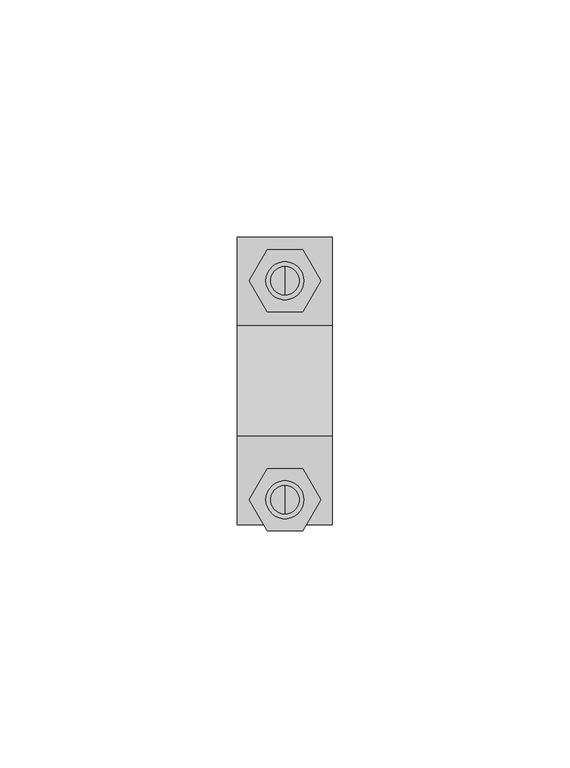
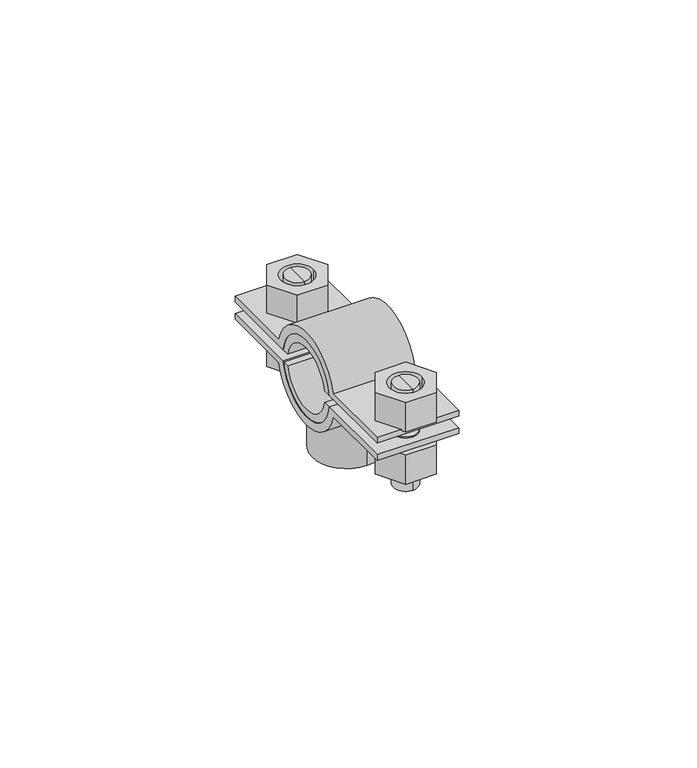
"""IFC4 building model written with IfcOpenShell, lengths in millimetres: valve geometry, Superfix DG2 Clamp Extra : Superfix DG2 Clamp Extra."""

from ifc_helpers import new_model, si_unit, point, frame, frame_2d, origin, origin_2d, place, context, project, spatial, polyline, circle_curve, trimmed, segment, composite_curve, outline, extrude, source, transform, mapped, element, save
from ifc_brep_helpers import plane_surface, cylinder_surface, advanced_brep


def valve_541e58e5(model_context):
    return source(origin(), model_context, "Body", "SolidModel", [
        advanced_brep(
        [(0.0, 24.125, 334.4), (0.0, 18.125, 334.4), (0.0, 18.125, 348.5), (0.0, 24.125, 348.5), (0.0, 21.125, 334.4)],
        [
            (0, 1, circle_curve(frame((0.0, 21.125, 334.4), z_axis=(0.0, 0.0, 1.0), x_axis=(0.0, 1.0, 0.0)), 3.0)),
            (1, 2),
            (2, 3, circle_curve(frame((0.0, 21.125, 348.5), z_axis=(0.0, 0.0, -1.0), x_axis=(0.0, 1.0, 0.0)), 3.0)),
            (3, 0),
            (1, 0, circle_curve(frame((0.0, 21.125, 334.4), z_axis=(0.0, 0.0, 1.0), x_axis=(0.0, 1.0, 0.0)), 3.0)),
            (3, 2, circle_curve(frame((0.0, 21.125, 348.5), z_axis=(0.0, 0.0, -1.0), x_axis=(0.0, 1.0, 0.0)), 3.0)),
            (0, 4),
            (4, 1),
        ],
        [
            cylinder_surface(frame((0.0, 21.125, 348.2806094), z_axis=(0.0, 0.0, 1.0), x_axis=(0.0, 1.0, 0.0)), 3.0),
            plane_surface(frame((0.0, 21.125, 334.4), z_axis=(0.0, 0.0, -1.0), x_axis=(0.0, 1.0, 0.0))),
            plane_surface(frame((13.75, -30.25, 348.5), z_axis=(0.0, 0.0, 1.0), x_axis=(-1.0, 0.0, 0.0))),
        ],
        [
            (0, [[1, 2, 3, 4]]),
            (0, [[5, -4, 6, -2]]),
            (1, [[-1, 7, 8]]),
            (1, [[-5, -8, -7]]),
            (2, [[-3, -6]]),
        ],
    ),
        advanced_brep(
        [(0.0, 18.125, 360.6), (0.0, 24.125, 360.6), (0.0, 24.125, 351.5), (0.0, 18.125, 351.5), (0.0, 21.125, 360.6)],
        [
            (0, 1, circle_curve(frame((0.0, 21.125, 360.6), z_axis=(0.0, 0.0, -1.0), x_axis=(0.0, 1.0, 0.0)), 3.0)),
            (1, 2),
            (2, 3, circle_curve(frame((0.0, 21.125, 351.5), z_axis=(0.0, 0.0, 1.0), x_axis=(0.0, 1.0, 0.0)), 3.0)),
            (3, 0),
            (1, 0, circle_curve(frame((0.0, 21.125, 360.6), z_axis=(0.0, 0.0, -1.0), x_axis=(0.0, 1.0, 0.0)), 3.0)),
            (3, 2, circle_curve(frame((0.0, 21.125, 351.5), z_axis=(0.0, 0.0, 1.0), x_axis=(0.0, 1.0, 0.0)), 3.0)),
            (0, 4),
            (4, 1),
        ],
        [
            cylinder_surface(frame((0.0, 21.125, 348.2806094), z_axis=(0.0, 0.0, 1.0), x_axis=(0.0, 1.0, 0.0)), 3.0),
            plane_surface(frame((0.0, 21.125, 360.6), z_axis=(0.0, 0.0, 1.0), x_axis=(0.0, 1.0, 0.0))),
            plane_surface(frame((13.75, 30.25, 351.5), z_axis=(0.0, 0.0, -1.0), x_axis=(-1.0, 0.0, 0.0))),
        ],
        [
            (0, [[1, 2, 3, 4]]),
            (0, [[5, -4, 6, -2]]),
            (1, [[-1, 7, 8]]),
            (1, [[-5, -8, -7]]),
            (2, [[-3, -6]]),
        ],
    ),
        advanced_brep(
        [(0.0, -28.0, 360.6), (0.0, -22.0, 360.6), (0.0, -22.0, 351.5), (0.0, -28.0, 351.5), (0.0, -25.0, 360.6)],
        [
            (0, 1, circle_curve(frame((0.0, -25.0, 360.6), z_axis=(0.0, 0.0, -1.0), x_axis=(0.0, -1.0, 0.0)), 3.0)),
            (1, 2),
            (2, 3, circle_curve(frame((0.0, -25.0, 351.5), z_axis=(0.0, 0.0, 1.0), x_axis=(0.0, -1.0, 0.0)), 3.0)),
            (3, 0),
            (1, 0, circle_curve(frame((0.0, -25.0, 360.6), z_axis=(0.0, 0.0, -1.0), x_axis=(0.0, -1.0, 0.0)), 3.0)),
            (3, 2, circle_curve(frame((0.0, -25.0, 351.5), z_axis=(0.0, 0.0, 1.0), x_axis=(0.0, -1.0, 0.0)), 3.0)),
            (0, 4),
            (4, 1),
        ],
        [
            cylinder_surface(frame((0.0, -25.0, 348.2806094), z_axis=(0.0, 0.0, -1.0), x_axis=(0.0, -1.0, 0.0)), 3.0),
            plane_surface(frame((0.0, -25.0, 360.6), z_axis=(0.0, 0.0, 1.0), x_axis=(0.0, -1.0, 0.0))),
            plane_surface(frame((13.75, 30.25, 351.5), z_axis=(0.0, 0.0, -1.0), x_axis=(-1.0, 0.0, 0.0))),
        ],
        [
            (0, [[1, 2, 3, 4]]),
            (0, [[5, -4, 6, -2]]),
            (1, [[-1, 7, 8]]),
            (1, [[-5, -8, -7]]),
            (2, [[-3, -6]]),
        ],
    ),
        advanced_brep(
        [(0.0, -22.0, 334.4), (0.0, -28.0, 334.4), (0.0, -28.0, 348.5), (0.0, -22.0, 348.5), (0.0, -25.0, 334.4)],
        [
            (0, 1, circle_curve(frame((0.0, -25.0, 334.4), z_axis=(0.0, 0.0, 1.0), x_axis=(0.0, -1.0, 0.0)), 3.0)),
            (1, 2),
            (2, 3, circle_curve(frame((0.0, -25.0, 348.5), z_axis=(0.0, 0.0, -1.0), x_axis=(0.0, -1.0, 0.0)), 3.0)),
            (3, 0),
            (1, 0, circle_curve(frame((0.0, -25.0, 334.4), z_axis=(0.0, 0.0, 1.0), x_axis=(0.0, -1.0, 0.0)), 3.0)),
            (3, 2, circle_curve(frame((0.0, -25.0, 348.5), z_axis=(0.0, 0.0, -1.0), x_axis=(0.0, -1.0, 0.0)), 3.0)),
            (0, 4),
            (4, 1),
        ],
        [
            cylinder_surface(frame((0.0, -25.0, 348.2806094), z_axis=(0.0, 0.0, -1.0), x_axis=(0.0, -1.0, 0.0)), 3.0),
            plane_surface(frame((0.0, -25.0, 334.4), z_axis=(0.0, 0.0, -1.0), x_axis=(0.0, -1.0, 0.0))),
            plane_surface(frame((13.75, -30.25, 348.5), z_axis=(0.0, 0.0, 1.0), x_axis=(-1.0, 0.0, 0.0))),
        ],
        [
            (0, [[1, 2, 3, 4]]),
            (0, [[5, -4, 6, -2]]),
            (1, [[-1, 7, 8]]),
            (1, [[-5, -8, -7]]),
            (2, [[-3, -6]]),
        ],
    ),
        extrude(outline(composite_curve([segment(trimmed(circle_curve(frame_2d((0.0, 350.0)), 10.0), [point((-9.88686, 348.5))], [point((9.88686, 348.5))], True, "CARTESIAN"), True, "CONTINUOUS"), segment(polyline([(9.88686, 348.5), (30.25, 348.5), (30.25, 347.0), (11.61895, 347.0)]), True, "CONTINUOUS"), segment(trimmed(circle_curve(frame_2d((0.0, 350.0)), 12.0), [point((11.61895, 347.0))], [point((-11.61895, 347.0))], False, "CARTESIAN"), True, "CONTINUOUS"), segment(polyline([(-11.61895, 347.0), (-30.25, 347.0), (-30.25, 348.5), (-9.88686, 348.5)]), True, "CONTINUOUS")], self_intersect=False)), frame((-10.0, 0.0, 0.0), z_axis=(1.0, 0.0, 0.0), x_axis=(0.0, 1.0, 0.0)), (0.0, 0.0, 1.0), 20.0),
        extrude(outline(composite_curve([segment(trimmed(circle_curve(frame_2d((0.0, 350.0)), 10.0), [point((9.88686, 351.5))], [point((-9.88686, 351.5))], True, "CARTESIAN"), True, "CONTINUOUS"), segment(polyline([(-9.88686, 351.5), (-30.25, 351.5), (-30.25, 353.0), (-11.61895, 353.0)]), True, "CONTINUOUS"), segment(trimmed(circle_curve(frame_2d((0.0, 350.0)), 12.0), [point((-11.61895, 353.0))], [point((11.61895, 353.0))], False, "CARTESIAN"), True, "CONTINUOUS"), segment(polyline([(11.61895, 353.0), (30.25, 353.0), (30.25, 351.5), (9.88686, 351.5)]), True, "CONTINUOUS")], self_intersect=False)), frame((-10.0, 0.0, 0.0), z_axis=(1.0, 0.0, 0.0), x_axis=(0.0, 1.0, 0.0)), (0.0, 0.0, 1.0), 20.0),
        extrude(outline(polyline([(7.5055535, -25.0), (3.7527767, -31.5), (-3.7527767, -31.5), (-7.5055535, -25.0), (-3.7527767, -18.5), (3.7527767, -18.5), (7.5055535, -25.0)]), holes=[composite_curve([segment(trimmed(circle_curve(frame_2d((0.0, -25.0)), 4.0), [point((4.0, -25.0))], [point((-4.0, -25.0))], True, "CARTESIAN"), True, "CONTINUOUS"), segment(trimmed(circle_curve(frame_2d((0.0, -25.0)), 4.0), [point((-4.0, -25.0))], [point((4.0, -25.0))], True, "CARTESIAN"), True, "CONTINUOUS")], self_intersect=False)]), frame((0.0, 0.0, 353.0), z_axis=(0.0, 0.0, 1.0), x_axis=(1.0, 0.0, 0.0)), (0.0, 0.0, 1.0), 7.6),
        extrude(outline(polyline([(7.5055535, 21.125), (3.7527767, 14.625), (-3.7527767, 14.625), (-7.5055535, 21.125), (-3.7527767, 27.625), (3.7527767, 27.625), (7.5055535, 21.125)]), holes=[composite_curve([segment(trimmed(circle_curve(frame_2d((0.0, 21.125)), 4.0), [point((4.0, 21.125))], [point((-4.0, 21.125))], True, "CARTESIAN"), True, "CONTINUOUS"), segment(trimmed(circle_curve(frame_2d((0.0, 21.125)), 4.0), [point((-4.0, 21.125))], [point((4.0, 21.125))], True, "CARTESIAN"), True, "CONTINUOUS")], self_intersect=False)]), frame((0.0, 0.0, 353.0), z_axis=(0.0, 0.0, 1.0), x_axis=(1.0, 0.0, 0.0)), (0.0, 0.0, 1.0), 7.6),
        extrude(outline(polyline([(7.5055535, -25.0), (3.7527767, -31.5), (-3.7527767, -31.5), (-7.5055535, -25.0), (-3.7527767, -18.5), (3.7527767, -18.5), (7.5055535, -25.0)]), holes=[composite_curve([segment(trimmed(circle_curve(frame_2d((0.0, -25.0)), 4.0), [point((4.0, -25.0))], [point((-4.0, -25.0))], True, "CARTESIAN"), True, "CONTINUOUS"), segment(trimmed(circle_curve(frame_2d((0.0, -25.0)), 4.0), [point((-4.0, -25.0))], [point((4.0, -25.0))], True, "CARTESIAN"), True, "CONTINUOUS")], self_intersect=False)]), frame((0.0, 0.0, 339.4), z_axis=(0.0, 0.0, 1.0), x_axis=(1.0, 0.0, 0.0)), (0.0, 0.0, 1.0), 7.6),
        extrude(outline(polyline([(7.5055535, 21.125), (3.7527767, 14.625), (-3.7527767, 14.625), (-7.5055535, 21.125), (-3.7527767, 27.625), (3.7527767, 27.625), (7.5055535, 21.125)]), holes=[composite_curve([segment(trimmed(circle_curve(frame_2d((0.0, 21.125)), 4.0), [point((4.0, 21.125))], [point((-4.0, 21.125))], True, "CARTESIAN"), True, "CONTINUOUS"), segment(trimmed(circle_curve(frame_2d((0.0, 21.125)), 4.0), [point((-4.0, 21.125))], [point((4.0, 21.125))], True, "CARTESIAN"), True, "CONTINUOUS")], self_intersect=False)]), frame((0.0, 0.0, 339.4), z_axis=(0.0, 0.0, 1.0), x_axis=(1.0, 0.0, 0.0)), (0.0, 0.0, 1.0), 7.6),
        extrude(outline(composite_curve([segment(trimmed(circle_curve(origin_2d(), 8.5), [point((0.0, 8.5))], [point((0.0, -8.5))], False, "CARTESIAN"), True, "CONTINUOUS"), segment(trimmed(circle_curve(origin_2d(), 8.5), [point((0.0, -8.5))], [point((0.0, 8.5))], False, "CARTESIAN"), True, "CONTINUOUS")], self_intersect=False), holes=[composite_curve([segment(trimmed(circle_curve(origin_2d(), 5.0), [point((0.0, 5.0))], [point((0.0, -5.0))], True, "CARTESIAN"), True, "CONTINUOUS"), segment(trimmed(circle_curve(origin_2d(), 5.0), [point((0.0, -5.0))], [point((0.0, 5.0))], True, "CARTESIAN"), True, "CONTINUOUS")], self_intersect=False)]), frame((0.0, 0.0, 329.0), z_axis=(0.0, 0.0, 1.0), x_axis=(1.0, 0.0, 0.0)), (0.0, 0.0, 1.0), 11.5),
        extrude(outline(composite_curve([segment(trimmed(circle_curve(frame_2d((0.0, 350.0)), 8.0), [point((7.8581168, 351.5))], [point((-7.8581168, 351.5))], True, "CARTESIAN"), True, "CONTINUOUS"), segment(polyline([(-7.8581168, 351.5), (-9.88686, 351.5)]), True, "CONTINUOUS"), segment(trimmed(circle_curve(frame_2d((0.0, 350.0)), 10.0), [point((-9.88686, 351.5))], [point((9.88686, 351.5))], False, "CARTESIAN"), True, "CONTINUOUS"), segment(polyline([(9.88686, 351.5), (7.8581168, 351.5)]), True, "CONTINUOUS")], self_intersect=False)), frame((-10.0, 0.0, 0.0), z_axis=(1.0, 0.0, 0.0), x_axis=(0.0, 1.0, 0.0)), (0.0, 0.0, 1.0), 20.0),
        extrude(outline(composite_curve([segment(polyline([(7.8581168, 348.5), (9.88686, 348.5)]), True, "CONTINUOUS"), segment(trimmed(circle_curve(frame_2d((0.0, 350.0)), 10.0), [point((9.88686, 348.5))], [point((-9.88686, 348.5))], False, "CARTESIAN"), True, "CONTINUOUS"), segment(polyline([(-9.88686, 348.5), (-7.8581168, 348.5)]), True, "CONTINUOUS"), segment(trimmed(circle_curve(frame_2d((0.0, 350.0)), 8.0), [point((-7.8581168, 348.5))], [point((7.8581168, 348.5))], True, "CARTESIAN"), True, "CONTINUOUS")], self_intersect=False)), frame((-10.0, 0.0, 0.0), z_axis=(1.0, 0.0, 0.0), x_axis=(0.0, 1.0, 0.0)), (0.0, 0.0, 1.0), 20.0),
    ])


if __name__ == "__main__":
    model = new_model("IFC4")
    model_context = context("Model", 3, world=origin())
    ifc_project = project(units=[si_unit("LENGTHUNIT", "METRE", prefix="MILLI")], contexts=[model_context])
    site = spatial("IfcSite", under=ifc_project)
    building = spatial("IfcBuilding", under=site)
    placement = place(None, origin())
    valve_shape = valve_541e58e5(model_context)
    element("IfcValve", 1, ObjectType="Superfix DG2 Clamp Extra : Superfix DG2 Clamp Extra", at=placement, inside=building, context=model_context, shape_type="MappedRepresentation", body=[
        mapped(valve_shape, transform((0.0, 0.0, 0.0), x_axis=(1.0, 0.0, 0.0), y_axis=(0.0, 1.0, 0.0), z_axis=(0.0, 0.0, 1.0))),
    ])
    save(model, "model.ifc")
